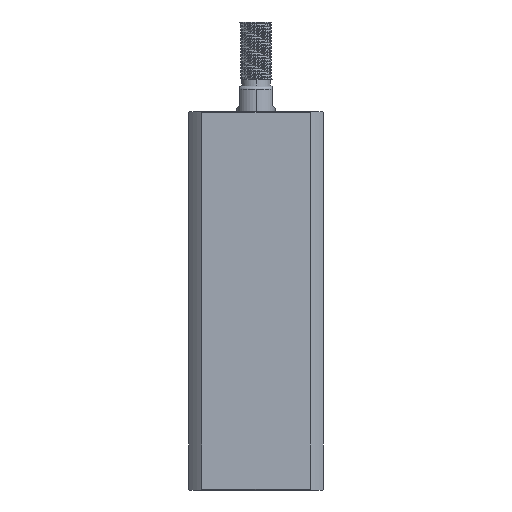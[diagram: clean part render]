
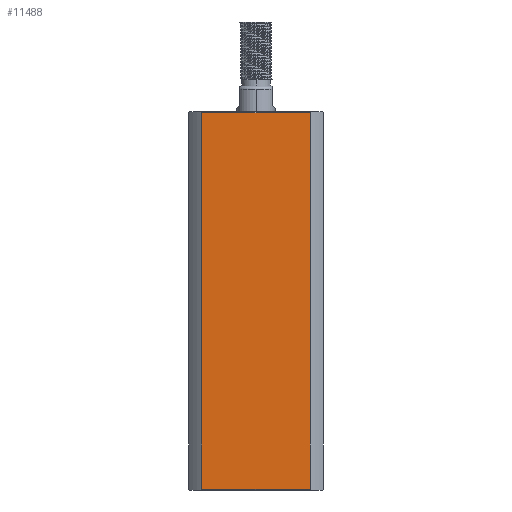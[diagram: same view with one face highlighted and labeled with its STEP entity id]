
A CAD part, left-side view. The second image highlights one B-rep face of the part: STEP entity #11488.
In plain terms, the highlighted planar face has unit normal (-1, 0, 0).
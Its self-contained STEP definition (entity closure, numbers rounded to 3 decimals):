
#359 = VERTEX_POINT ( 'NONE', #3972 ) ;
#438 = CARTESIAN_POINT ( 'NONE',  ( -21., 21., 118. ) ) ;
#839 = ORIENTED_EDGE ( 'NONE', *, *, #4953, .T. ) ;
#1571 = PLANE ( 'NONE',  #5754 ) ;
#1615 = LINE ( 'NONE', #13175, #10511 ) ;
#1630 = DIRECTION ( 'NONE',  ( 1., 0., 0. ) ) ;
#2041 = EDGE_CURVE ( 'NONE', #3935, #359, #1615, .T. ) ;
#2682 = ORIENTED_EDGE ( 'NONE', *, *, #6299, .F. ) ;
#2797 = LINE ( 'NONE', #3012, #14780 ) ;
#3012 = CARTESIAN_POINT ( 'NONE',  ( -21., 16.971, -182. ) ) ;
#3168 = DIRECTION ( 'NONE',  ( 0., 1., 0. ) ) ;
#3647 = FACE_OUTER_BOUND ( 'NONE', #8727, .T. ) ;
#3897 = LINE ( 'NONE', #12488, #12767 ) ;
#3935 = VERTEX_POINT ( 'NONE', #10924 ) ;
#3962 = CARTESIAN_POINT ( 'NONE',  ( -21., 16.971, 117.7 ) ) ;
#3972 = CARTESIAN_POINT ( 'NONE',  ( -21., -16.971, 0.3 ) ) ;
#4953 = EDGE_CURVE ( 'NONE', #11824, #359, #3897, .T. ) ;
#5470 = VECTOR ( 'NONE', #3168, 1000. ) ;
#5754 = AXIS2_PLACEMENT_3D ( 'NONE', #438, #1630, #9782 ) ;
#6299 = EDGE_CURVE ( 'NONE', #11824, #13457, #2797, .T. ) ;
#6883 = ORIENTED_EDGE ( 'NONE', *, *, #2041, .F. ) ;
#7731 = CARTESIAN_POINT ( 'NONE',  ( -21., 21., 117.7 ) ) ;
#7783 = EDGE_CURVE ( 'NONE', #3935, #13457, #14768, .T. ) ;
#8727 = EDGE_LOOP ( 'NONE', ( #2682, #839, #6883, #13976 ) ) ;
#9726 = DIRECTION ( 'NONE',  ( 0., 0., -1. ) ) ;
#9782 = DIRECTION ( 'NONE',  ( 0., 1., 0. ) ) ;
#10511 = VECTOR ( 'NONE', #9726, 1000. ) ;
#10924 = CARTESIAN_POINT ( 'NONE',  ( -21., -16.971, 117.7 ) ) ;
#11284 = CARTESIAN_POINT ( 'NONE',  ( -21., 16.971, 0.3 ) ) ;
#11488 = ADVANCED_FACE ( 'NONE', ( #3647 ), #1571, .F. ) ;
#11824 = VERTEX_POINT ( 'NONE', #11284 ) ;
#12488 = CARTESIAN_POINT ( 'NONE',  ( -21., 21., 0.3 ) ) ;
#12767 = VECTOR ( 'NONE', #14940, 1000. ) ;
#13175 = CARTESIAN_POINT ( 'NONE',  ( -21., -16.971, -182. ) ) ;
#13449 = DIRECTION ( 'NONE',  ( 0., 0., 1. ) ) ;
#13457 = VERTEX_POINT ( 'NONE', #3962 ) ;
#13976 = ORIENTED_EDGE ( 'NONE', *, *, #7783, .T. ) ;
#14768 = LINE ( 'NONE', #7731, #5470 ) ;
#14780 = VECTOR ( 'NONE', #13449, 1000. ) ;
#14940 = DIRECTION ( 'NONE',  ( 0., -1., 0. ) ) ;
